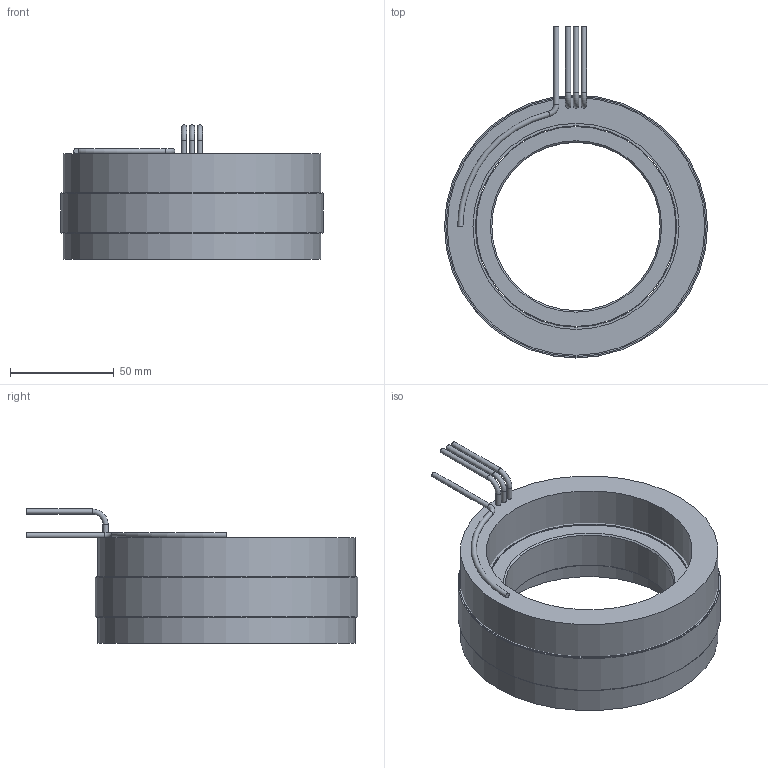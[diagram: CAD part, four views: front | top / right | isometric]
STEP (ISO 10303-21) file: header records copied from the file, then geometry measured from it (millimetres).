
FILE_DESCRIPTION (( 'STEP AP214' ), '1' );
FILE_NAME ('6100398-01.STEP', '2020-12-27T03:05:41', ( '' ), ( '' ), 'SwSTEP 2.0', 'SolidWorks 2016', '' );
FILE_SCHEMA (( 'AUTOMOTIVE_DESIGN' ));
Length unit declared in the file: inch
Products named in the file (10): 4600570-00; 4250386-XX_4250386-01; 4450194-XX_4450194-01; 4400106-00; 4500563-XX_4500563-01; 6100398-01; COMP4500563-XX(COIL)_COMP4500563-01(COIL); 4150184-XX_4150184-01
Assembly tree (10 placements, depth 4):
  6100398-01
    4250386-XX_4250386-01
      4150184-XX_4150184-01
    4500563-XX_4500563-01
      COMP4500563-XX(COIL)_COMP4500563-01(COIL)
      4450194-XX_4450194-01
        4450194-XX_4450194-01
        4400106-00
        4400106-00
        4600570-00  x2
Bounding box: 127 x 160.29 x 64.77 mm (x, y, z)
Volume: 366476.2 mm3; surface area: 126411.1 mm2
Topology: 8 solids, 8 shells, 47 faces, 74 edges, 46 vertices
Faces by surface type: cylinder 21, plane 19, torus 5, cone 2
Full cylindrical faces by diameter (mm): 2.54 x7, 81.28 x1, 96.52 x1, 97.282 x5, 99.568 x1, 124.46 x1, 125.73 x2, 127 x3
Entity records: 1305 total; most frequent: DIRECTION 202, CARTESIAN_POINT 143, AXIS2_PLACEMENT_3D 101, EDGE_LOOP 84, ORIENTED_EDGE 84, FACE_OUTER_BOUND 67, ADVANCED_FACE 43, CIRCLE 42
